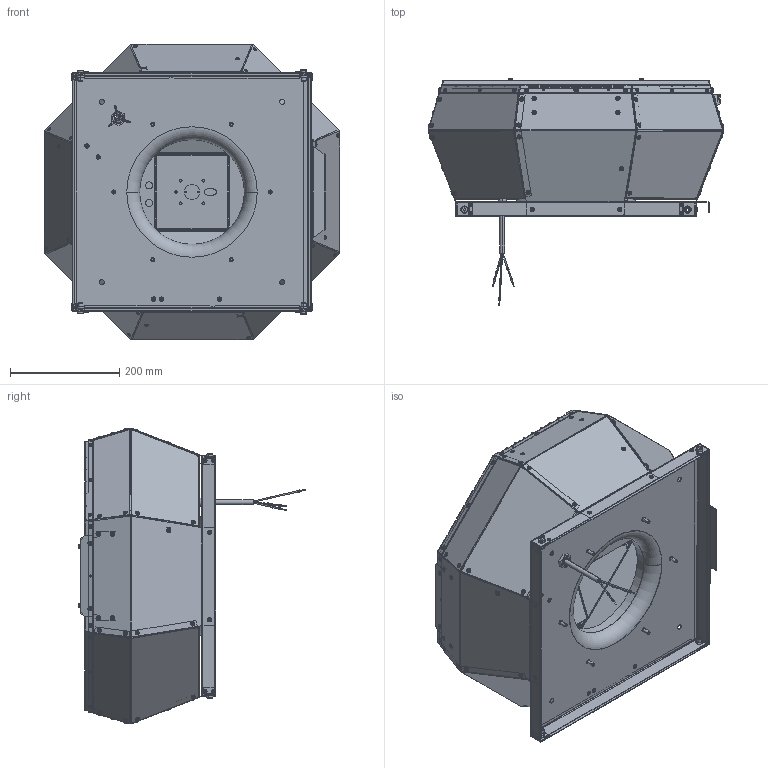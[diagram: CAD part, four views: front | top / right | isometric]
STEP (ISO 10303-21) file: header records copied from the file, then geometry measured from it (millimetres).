
FILE_DESCRIPTION (( 'STEP AP203' ), '1' );
FILE_NAME ('139321-00_DVA280E4P31.STEP', '2017-03-31T07:49:14', ( '' ), ( '' ), 'SwSTEP 2.0', 'SolidWorks 2012', '' );
FILE_SCHEMA (( 'CONFIG_CONTROL_DESIGN' ));
Products named in the file (1): 139321-00_DVA280E4P31
Bounding box: 541.17 x 415.31 x 541.14 mm (x, y, z)
Surface area: 1990128.6 mm2 (no closed solid volume)
Topology: 0 solids, 255 shells, 2791 faces, 9398 edges, 6505 vertices
Faces by surface type: plane 1542, cylinder 797, torus 384, bspline 40, cone 28
Entity records: 105071 total; most frequent: CARTESIAN_POINT 22374, DIRECTION 17455, ORIENTED_EDGE 15048, EDGE_CURVE 9398, VERTEX_POINT 6505, AXIS2_PLACEMENT_3D 5853, LINE 5749, VECTOR 5749
